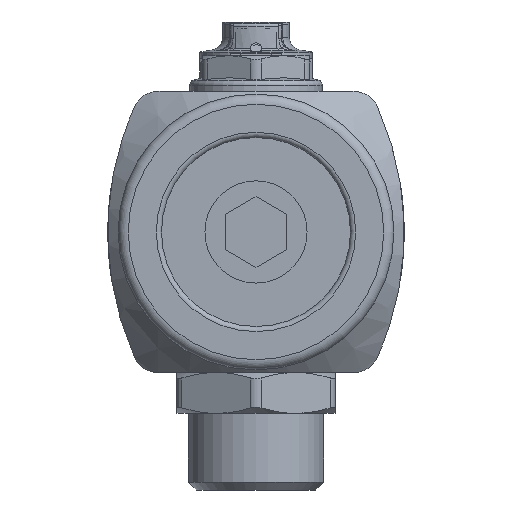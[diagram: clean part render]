
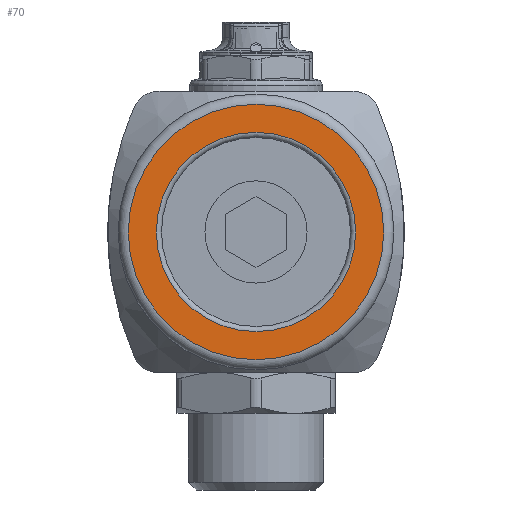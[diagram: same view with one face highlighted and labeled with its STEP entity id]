
A CAD part, front view. The second image highlights one B-rep face of the part: STEP entity #70.
In plain terms, the highlighted planar face has unit normal (0, -1, 0).
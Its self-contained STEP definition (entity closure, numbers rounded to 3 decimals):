
#70=ADVANCED_FACE('',(#938,#940),#942,.F.);
#938=FACE_BOUND('',#939,.T.);
#939=EDGE_LOOP('',(#8280));
#940=FACE_BOUND('',#941,.T.);
#941=EDGE_LOOP('',(#8281));
#942=PLANE('',#943);
#943=AXIS2_PLACEMENT_3D('',#944,#945,#946);
#944=CARTESIAN_POINT('',(0.,-154.,0.));
#945=DIRECTION('',(0.,1.,0.));
#946=DIRECTION('',(-1.,0.,0.));
#8280=ORIENTED_EDGE('',*,*,#14331,.F.);
#8281=ORIENTED_EDGE('',*,*,#14318,.T.);
#14318=EDGE_CURVE('',#16781,#16781,#16782,.F.);
#14331=EDGE_CURVE('',#16801,#16801,#16802,.T.);
#16781=VERTEX_POINT('',#20322);
#16782=CIRCLE('',#20323,19.5);
#16801=VERTEX_POINT('',#20369);
#16802=CIRCLE('',#20370,25.);
#20322=CARTESIAN_POINT('',(19.5,-154.,0.));
#20323=AXIS2_PLACEMENT_3D('',#20324,#20325,#20326);
#20324=CARTESIAN_POINT('',(0.,-154.,0.));
#20325=DIRECTION('',(0.,-1.,0.));
#20326=DIRECTION('',(1.,0.,0.));
#20369=CARTESIAN_POINT('',(-25.,-154.,0.));
#20370=AXIS2_PLACEMENT_3D('',#20371,#20372,#20373);
#20371=CARTESIAN_POINT('',(0.,-154.,0.));
#20372=DIRECTION('',(0.,1.,0.));
#20373=DIRECTION('',(-1.,0.,0.));
